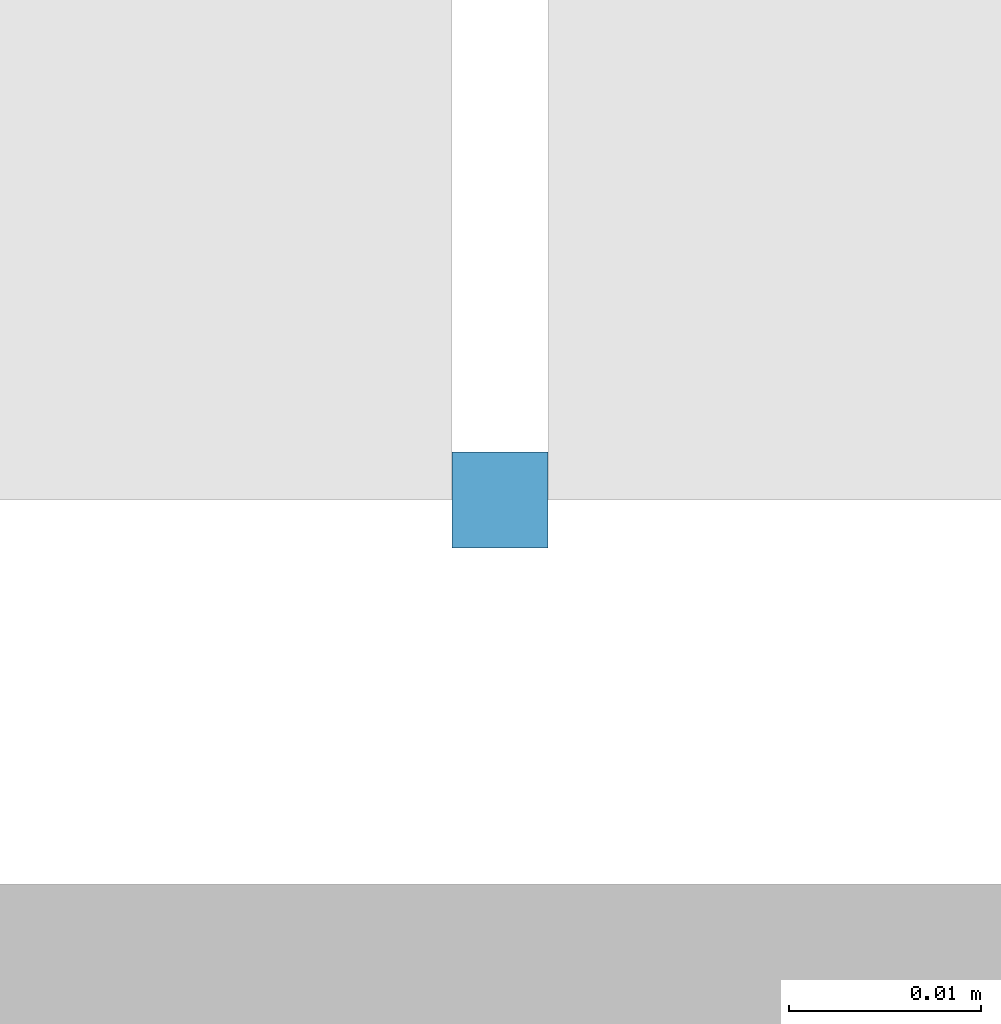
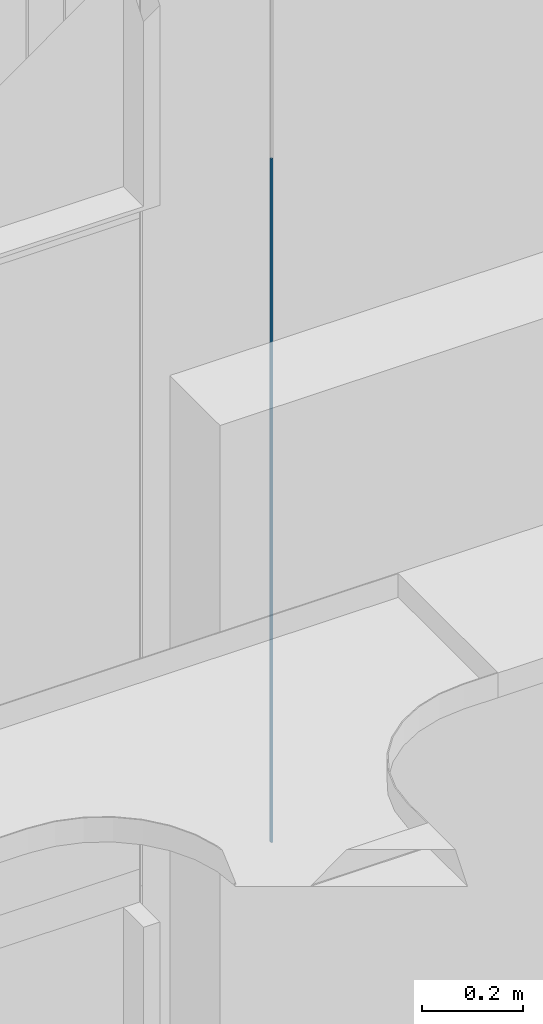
# One storey, part 93 of 302: 1 member, 1 element without a shape of its own.
"""IFC2X3 building model written with IfcOpenShell, lengths in metres."""

from ifc_helpers import new_model, entity, si_unit, converted_unit, derived_unit, direction, frame, frame_2d, origin, place, context, subcontext, project, spatial, rectangle, extrude, source, transform, mapped, material, type_object, type_shapes, element, aggregate, save


model = new_model("IFC2X3")

# Units and contexts
model_context = context("Model", 3, precision=1e-05, world=origin(), true_north=direction((6.12303176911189e-17, 1.0)))
body_context = subcontext(model_context, "Body", "Model", "MODEL_VIEW")
ifc_project = project(units=[si_unit("LENGTHUNIT", "METRE"), si_unit("AREAUNIT", "SQUARE_METRE"), si_unit("VOLUMEUNIT", "CUBIC_METRE"), converted_unit("PLANEANGLEUNIT", "DEGREE", entity("IfcRatioMeasure", 0.0174532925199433), si_unit("PLANEANGLEUNIT", "RADIAN"), dimensions=[0, 0, 0, 0, 0, 0, 0]), si_unit("MASSUNIT", "GRAM", prefix="KILO"), derived_unit("MASSDENSITYUNIT", [(si_unit("MASSUNIT", "GRAM", prefix="KILO"), 1), (si_unit("LENGTHUNIT", "METRE"), -3)]), derived_unit("MOMENTOFINERTIAUNIT", [(si_unit("LENGTHUNIT", "METRE"), 4)]), si_unit("TIMEUNIT", "SECOND"), si_unit("FREQUENCYUNIT", "HERTZ"), si_unit("THERMODYNAMICTEMPERATUREUNIT", "DEGREE_CELSIUS"), derived_unit("THERMALTRANSMITTANCEUNIT", [(si_unit("MASSUNIT", "GRAM", prefix="KILO"), 1), (si_unit("THERMODYNAMICTEMPERATUREUNIT", "KELVIN"), -1), (si_unit("TIMEUNIT", "SECOND"), -3)]), derived_unit("VOLUMETRICFLOWRATEUNIT", [(si_unit("LENGTHUNIT", "METRE"), 3), (si_unit("TIMEUNIT", "SECOND"), -1)]), si_unit("ELECTRICCURRENTUNIT", "AMPERE"), si_unit("ELECTRICVOLTAGEUNIT", "VOLT"), si_unit("POWERUNIT", "WATT"), si_unit("FORCEUNIT", "NEWTON", prefix="KILO"), si_unit("ILLUMINANCEUNIT", "LUX"), si_unit("LUMINOUSFLUXUNIT", "LUMEN"), si_unit("LUMINOUSINTENSITYUNIT", "CANDELA"), derived_unit("USERDEFINED", [(si_unit("MASSUNIT", "GRAM", prefix="KILO"), -1), (si_unit("LENGTHUNIT", "METRE"), -2), (si_unit("TIMEUNIT", "SECOND"), 3), (si_unit("LUMINOUSFLUXUNIT", "LUMEN"), 1)]), derived_unit("LINEARVELOCITYUNIT", [(si_unit("LENGTHUNIT", "METRE"), 1), (si_unit("TIMEUNIT", "SECOND"), -1)]), si_unit("PRESSUREUNIT", "PASCAL"), derived_unit("USERDEFINED", [(si_unit("LENGTHUNIT", "METRE"), -2), (si_unit("MASSUNIT", "GRAM", prefix="KILO"), 1), (si_unit("TIMEUNIT", "SECOND"), -2)]), derived_unit("LINEARFORCEUNIT", [(si_unit("MASSUNIT", "GRAM", prefix="KILO"), 1), (si_unit("LENGTHUNIT", "METRE"), 1), (si_unit("TIMEUNIT", "SECOND"), -2), (si_unit("LENGTHUNIT", "METRE"), -1)]), derived_unit("PLANARFORCEUNIT", [(si_unit("MASSUNIT", "GRAM", prefix="KILO"), 1), (si_unit("LENGTHUNIT", "METRE"), 1), (si_unit("TIMEUNIT", "SECOND"), -2), (si_unit("LENGTHUNIT", "METRE"), -2)])], contexts=[model_context])

# Site, building, storey
site_placement = place(None, origin())
site = spatial("IfcSite", under=ifc_project, at=site_placement, Name="Default", CompositionType="ELEMENT")
building_placement = place(site_placement, origin())
building = spatial("IfcBuilding", under=site, at=building_placement, CompositionType="ELEMENT")
storey_placement = place(building_placement, frame((0.0, 0.0, -1.3)))
storey = spatial("IfcBuildingStorey", under=building, at=storey_placement, Name="00_EG", CompositionType="ELEMENT", Elevation=-1.3)

# Curtain wall, member
curtain_wall_type = type_object("IfcCurtainWallType", Name="Fassade:Curtain Wall 1", PredefinedType="NOTDEFINED")
curtain_wall_placement = place(storey_placement, frame((0.0, 0.0, 1.3)))
curtain_wall = element("IfcCurtainWall", 1, at=curtain_wall_placement, inside=storey, type_object=curtain_wall_type, Name="Fassade:Curtain Wall 1", ObjectType="Fassade:Curtain Wall 1")
ifc_material = material(Name="Aluminium")
member_type = type_object("IfcMemberType", Name="Rectangular Mullion:Paneele Spalt", PredefinedType="MULLION", material=ifc_material)
shared_shape = source(origin(), body_context, "Body", "SweptSolid", [
    extrude(rectangle(XDim=0.005, YDim=0.005, at=frame_2d((0.0, -6.50521303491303e-19), x_axis=(1.0, 0.0))), frame((0.0, 0.0, -1.66000000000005), z_axis=(0.0, 0.0, 1.0), x_axis=(0.0, -1.0, 0.0)), (0.0, 0.0, 1.0), 1.66000000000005),
])
type_shapes(member_type, [shared_shape])
member_placement = place(storey_placement, frame((-219.610111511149, 45.578088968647, 4.06999999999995), z_axis=(0.0, 0.0, -1.0), x_axis=(-1.0, 0.0, 0.0)))
member = element("IfcMember", 2, at=member_placement, type_object=member_type, material=ifc_material, Name="Rectangular Mullion:Paneele Spalt", ObjectType="Rectangular Mullion:Paneele Spalt", context=body_context, shape_type="MappedRepresentation", body=[
    mapped(shared_shape, transform((0.0, 0.0, 0.0), scale=1.0)),
])
aggregate(curtain_wall, [member])

save(model, "model.ifc")
